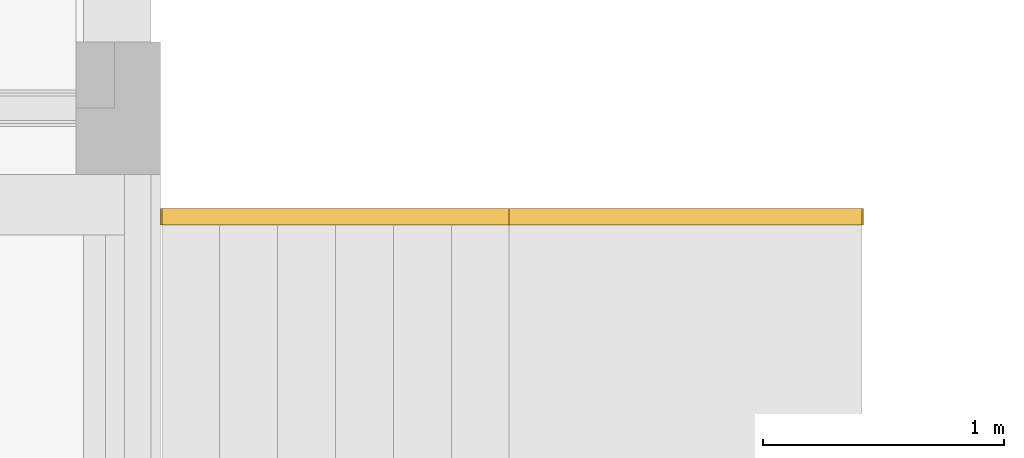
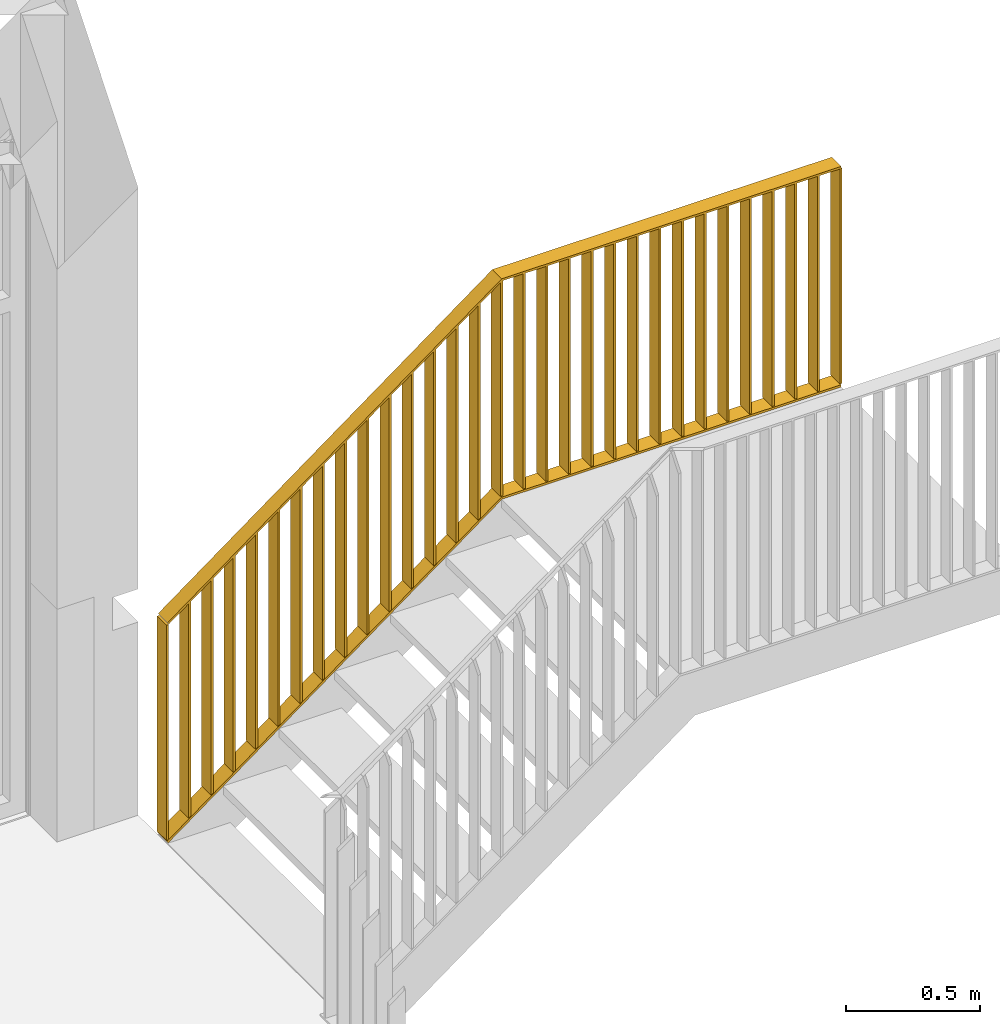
# One storey, part 48 of 54: 1 railing.
"""IFC2X3 building model written with IfcOpenShell, lengths in millimetres."""

import ifcopenshell
import ifcopenshell.guid

model = None  # the IFC model being written
_history = None  # IfcOwnerHistory: only IFC2X3 demands one
_inside = {}  # id of a spatial element -> (the spatial element, [elements in it])
_under = {}  # id of a project, library or spatial element -> (it, [spatial elements below it])
_declared = {}  # id of a project -> (the project, [libraries it declares])
_typed = {}  # id of a type object -> (the type object, [elements of that type])
_made_of = {}  # id of a material, layer set ... -> (it, [elements and type objects made of it])


def new_model(schema):
    """Start an empty IFC model of exactly this schema.

    Asked for "IFC4X3", IfcOpenShell would pick the latest addendum, in which some entities
    have other attributes; the version numbers below select the first issue.
    IFC2X3 requires an IfcOwnerHistory on every rooted entity: one is made here for all.
    """
    global model, _history
    if schema == "IFC4X3":
        model = ifcopenshell.file(schema_version=(4, 3, 0, 0))
    else:
        model = ifcopenshell.file(schema=schema)
    _inside.clear()
    _under.clear()
    _declared.clear()
    _typed.clear()
    _made_of.clear()
    _history = None
    if model.schema == "IFC2X3":
        org = make("IfcOrganization", Name="unknown")
        user = make(
            "IfcPersonAndOrganization",
            ThePerson=make("IfcPerson", FamilyName="unknown"),
            TheOrganization=org,
        )
        app = make(
            "IfcApplication",
            ApplicationDeveloper=org,
            Version="unknown",
            ApplicationFullName="unknown",
            ApplicationIdentifier="unknown",
        )
        _history = make(
            "IfcOwnerHistory",
            OwningUser=user,
            OwningApplication=app,
            ChangeAction="ADDED",
            CreationDate=0,
        )
    return model


def make(cls, **values):
    """One entity of the class cls with the attributes given. An attribute that is None is left unset."""
    return model.create_entity(
        cls, **{name: value for name, value in values.items() if value is not None}
    )


def entity(cls, *values):
    """Any entity or typed value of the class cls, its attributes in the order of the schema. None: left unset."""
    e = model.create_entity(cls)
    for i, value in enumerate(values):
        if value is not None:
            e[i] = value
    return e


def rooted(cls, **values):
    """An entity with a GlobalId (a new one), such as an element, a storey or a relation."""
    return make(cls, GlobalId=ifcopenshell.guid.new(), OwnerHistory=_history, **values)


def si_unit(unit_type, name, prefix=None):
    """IfcSIUnit, for example si_unit("LENGTHUNIT", "METRE", prefix="MILLI")."""
    return make("IfcSIUnit", UnitType=unit_type, Prefix=prefix, Name=name)


def converted_unit(unit_type, name, factor, base, dimensions=None, offset=None):
    """IfcConversionBasedUnit, such as the inch: factor (a typed value) times the base unit."""
    return make(
        "IfcConversionBasedUnit"
        if offset is None
        else "IfcConversionBasedUnitWithOffset",
        ConversionOffset=offset,
        Dimensions=None
        if dimensions is None
        else entity("IfcDimensionalExponents", *dimensions),
        UnitType=unit_type,
        Name=name,
        ConversionFactor=make(
            "IfcMeasureWithUnit", ValueComponent=factor, UnitComponent=base
        ),
    )


def derived_unit(unit_type, elements):
    """IfcDerivedUnit: a product of units, each with its exponent."""
    return make(
        "IfcDerivedUnit",
        Elements=[
            make("IfcDerivedUnitElement", Unit=unit, Exponent=power)
            for unit, power in elements
        ],
        UnitType=unit_type,
    )


def money_unit(currency):
    """IfcMonetaryUnit."""
    return make("IfcMonetaryUnit", Currency=currency)


def assignment(units):
    """IfcUnitAssignment: the units of a project."""
    return None if units is None else make("IfcUnitAssignment", Units=units)


def point(xyz):
    """IfcCartesianPoint."""
    return None if xyz is None else make("IfcCartesianPoint", Coordinates=xyz)


def direction(xyz):
    """IfcDirection."""
    return None if xyz is None else make("IfcDirection", DirectionRatios=xyz)


def frame(location, z_axis=None, x_axis=None):
    """IfcAxis2Placement3D, a coordinate frame: its origin and axes. An axis left out is left unset."""
    return make(
        "IfcAxis2Placement3D",
        Location=point(location),
        Axis=direction(z_axis),
        RefDirection=direction(x_axis),
    )


def origin_with_axes():
    """The frame at (0, 0, 0) with the z axis (0, 0, 1) and the x axis (1, 0, 0) written out."""
    return frame((0.0, 0.0, 0.0), z_axis=(0.0, 0.0, 1.0), x_axis=(1.0, 0.0, 0.0))


def place(relative_to, where):
    """IfcLocalPlacement: puts the frame where relative to a parent placement (None: the world)."""
    return make(
        "IfcLocalPlacement", PlacementRelTo=relative_to, RelativePlacement=where
    )


def context(
    kind, dimensions, precision=None, world=None, true_north=None, identifier=None
):
    """IfcGeometricRepresentationContext, for example the 3D "Model" context."""
    return make(
        "IfcGeometricRepresentationContext",
        ContextIdentifier=identifier,
        ContextType=kind,
        CoordinateSpaceDimension=dimensions,
        Precision=precision,
        WorldCoordinateSystem=world,
        TrueNorth=true_north,
    )


def subcontext(parent, identifier, kind, view, scale=None):
    """IfcGeometricRepresentationSubContext, for example "Body" below "Model"."""
    return make(
        "IfcGeometricRepresentationSubContext",
        ContextIdentifier=identifier,
        ContextType=kind,
        ParentContext=parent,
        TargetScale=scale,
        TargetView=view,
    )


def project(units=None, contexts=None):
    """IfcProject with its units and contexts."""
    return rooted(
        "IfcProject",
        Name="project",
        RepresentationContexts=contexts,
        UnitsInContext=assignment(units),
    )


def spatial(cls, under=None, at=None, **own):
    """A site, building, storey or space (cls), placed at a placement, below another one or the project."""
    s = rooted(cls, ObjectPlacement=at, **own)
    if under is not None:
        _under.setdefault(under.id(), (under, []))[1].append(s)
    return s


def faces_of(points, faces, orient=None, outer=None):
    """IfcFace entities. A face is a list of loops; a loop is a list of indices into points, from 0.

    orient and outer hold one flag for each loop. By default every Orientation is true, the
    first loop of a face is its IfcFaceOuterBound and the others are IfcFaceBound.
    """
    made = []
    for i, loops in enumerate(faces):
        bounds = []
        for j, loop in enumerate(loops):
            is_outer = j == 0 if outer is None else outer[i][j]
            bounds.append(
                make(
                    "IfcFaceOuterBound" if is_outer else "IfcFaceBound",
                    Bound=make("IfcPolyLoop", Polygon=[points[k] for k in loop]),
                    Orientation=True if orient is None else orient[i][j],
                )
            )
        made.append(make("IfcFace", Bounds=bounds))
    return made


def faceted_brep(points, faces, orient=None, outer=None, voids=None):
    """IfcFacetedBrep: a solid bounded by flat faces; with voids (closed shells), ...WithVoids."""
    shared = [point(p) for p in points]
    hull = make("IfcClosedShell", CfsFaces=faces_of(shared, faces, orient, outer))
    if voids is None:
        return make("IfcFacetedBrep", Outer=hull)
    return make(
        "IfcFacetedBrepWithVoids",
        Outer=hull,
        Voids=[
            make(cls, CfsFaces=faces_of(shared, fs, o, b)) for cls, fs, o, b in voids
        ],
    )


def shape(context_of_items, identifier, shape_type, items):
    """IfcShapeRepresentation: the items that make up one representation, for example the "Body"."""
    return make(
        "IfcShapeRepresentation",
        ContextOfItems=context_of_items,
        RepresentationIdentifier=identifier,
        RepresentationType=shape_type,
        Items=items,
    )


def material(Name=None, Category=None):
    """IfcMaterial."""
    return make("IfcMaterial", Name=Name, Category=Category)


def material_list(materials):
    """IfcMaterialList."""
    return make("IfcMaterialList", Materials=materials)


def made_of(thing, what):
    """Note that an element or type object is made of a material, layer set ...; save() writes the relation."""
    if what is not None:
        _made_of.setdefault(what.id(), (what, []))[1].append(thing)
    return thing


def type_object(cls, material=None, **own):
    """A type object (cls), such as IfcWallType, which elements share."""
    return made_of(rooted(cls, **own), material)


def element(
    cls,
    number,
    at=None,
    inside=None,
    cuts=None,
    type_object=None,
    material=None,
    context=None,
    identifier="Body",
    shape_type=None,
    held_by="IfcProductDefinitionShape",
    body=None,
    shapes=None,
    **own,
):
    """One element of the class cls, such as IfcWall. Its Tag is "e" and its number.

    at: its placement. inside: the storey or other place that contains it. cuts: it is an
    opening in that element (IfcRelVoidsElement). A single representation is given by context,
    identifier, shape_type and body (its items); several are given by shapes. held_by: the class
    of the entity that holds the representations. save() writes the other relations.
    """
    e = rooted(cls, Tag="e%d" % number, ObjectPlacement=at, **own)
    if body is not None:
        shapes = [shape(context, identifier, shape_type, body)]
    if shapes is not None:
        e.Representation = make(held_by, Representations=shapes)
    if inside is not None:
        _inside.setdefault(inside.id(), (inside, []))[1].append(e)
    if cuts is not None:
        rooted(
            "IfcRelVoidsElement", RelatingBuildingElement=cuts, RelatedOpeningElement=e
        )
    if type_object is not None:
        _typed.setdefault(type_object.id(), (type_object, []))[1].append(e)
    return made_of(e, material)


def aggregate(whole, parts):
    """IfcRelAggregates: a whole, such as a stair, and the parts it consists of."""
    return rooted("IfcRelAggregates", RelatingObject=whole, RelatedObjects=parts)


def save(model, path):
    """Write the relations noted so far, then the file.

    IfcRelAggregates (storeys below a building ...), IfcRelContainedInSpatialStructure (elements
    in a storey), IfcRelDefinesByType, IfcRelAssociatesMaterial and IfcRelDeclares: one each for
    every whole, place, type object, material and project.
    """
    for whole, parts in _under.values():
        aggregate(whole, parts)
    for where, things in _inside.values():
        rooted(
            "IfcRelContainedInSpatialStructure",
            RelatedElements=things,
            RelatingStructure=where,
        )
    for kind, things in _typed.values():
        rooted("IfcRelDefinesByType", RelatedObjects=things, RelatingType=kind)
    for what, things in _made_of.values():
        rooted("IfcRelAssociatesMaterial", RelatedObjects=things, RelatingMaterial=what)
    for by, libraries in _declared.values():
        rooted("IfcRelDeclares", RelatingContext=by, RelatedDefinitions=libraries)
    model.write(path)


model = new_model("IFC2X3")

# Units and contexts
model_context = context("Model", 3, precision=0.01, world=origin_with_axes(), true_north=direction((0.0, 1.0)))
body_context = subcontext(model_context, "Body", "Model", "MODEL_VIEW")
ifc_project = project(units=[si_unit("LENGTHUNIT", "METRE", prefix="MILLI"), si_unit("AREAUNIT", "SQUARE_METRE"), si_unit("VOLUMEUNIT", "CUBIC_METRE"), converted_unit("PLANEANGLEUNIT", "DEGREE", entity("IfcPlaneAngleMeasure", 0.0174532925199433), si_unit("PLANEANGLEUNIT", "RADIAN"), dimensions=[0, 0, 0, 0, 0, 0, 0]), money_unit("EUR"), converted_unit("TIMEUNIT", "Year", entity("IfcTimeMeasure", 31557600.0), si_unit("TIMEUNIT", "SECOND"), dimensions=[0, 0, 1, 0, 0, 0, 0]), si_unit("MASSUNIT", "GRAM", prefix="KILO"), si_unit("THERMODYNAMICTEMPERATUREUNIT", "DEGREE_CELSIUS"), si_unit("LUMINOUSINTENSITYUNIT", "LUMEN"), si_unit("ENERGYUNIT", "JOULE", prefix="MEGA"), derived_unit("THERMALCONDUCTANCEUNIT", [(si_unit("POWERUNIT", "WATT"), 1), (si_unit("LENGTHUNIT", "METRE"), -1), (si_unit("THERMODYNAMICTEMPERATUREUNIT", "KELVIN"), -1)]), derived_unit("SPECIFICHEATCAPACITYUNIT", [(si_unit("ENERGYUNIT", "JOULE"), 1), (si_unit("MASSUNIT", "GRAM", prefix="KILO"), -1), (si_unit("THERMODYNAMICTEMPERATUREUNIT", "KELVIN"), -1)]), derived_unit("MASSDENSITYUNIT", [(si_unit("MASSUNIT", "GRAM", prefix="KILO"), 1), (si_unit("VOLUMEUNIT", "CUBIC_METRE"), -1)])], contexts=[model_context])

# Site, building, storey
site_placement = place(None, origin_with_axes())
site = spatial("IfcSite", under=ifc_project, at=site_placement, Name="<site naam>", CompositionType="ELEMENT")
building_placement = place(site_placement, origin_with_axes())
building = spatial("IfcBuilding", under=site, at=building_placement, Name="<Naam gebouw>", CompositionType="ELEMENT")
storey_placement = place(building_placement, frame((0.0, 0.0, 8500.0), z_axis=(0.0, 0.0, 1.0), x_axis=(1.0, 0.0, 0.0)))
storey = spatial("IfcBuildingStorey", under=building, at=storey_placement, Name="02 2e verdieping", CompositionType="ELEMENT", Elevation=8500.0)

# Railing
ifc_material = material(Name="staal balustrade")
ifc_material_list = material_list([ifc_material, ifc_material, ifc_material, ifc_material, ifc_material, ifc_material, ifc_material, ifc_material, ifc_material, ifc_material, ifc_material, ifc_material, ifc_material, ifc_material, ifc_material, ifc_material, ifc_material, ifc_material, ifc_material, ifc_material, ifc_material, ifc_material, ifc_material, ifc_material, ifc_material, ifc_material, ifc_material, ifc_material, ifc_material, ifc_material, ifc_material, ifc_material, ifc_material, ifc_material, ifc_material])
railing_type = type_object("IfcRailingType", Name="Railing Type", PredefinedType="NOTDEFINED")
railing_placement = place(storey_placement, frame((52215.80885018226, 11515.00000000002, 0.0), z_axis=(0.0, 0.0, 1.0), x_axis=(1.0, 0.0, 0.0)))
element("IfcRailing", 1, at=railing_placement, inside=storey, type_object=railing_type, material=ifc_material_list, Name="34_Reling_", PredefinedType="NOTDEFINED", context=body_context, shape_type="Brep", body=[
    faceted_brep([(-30.62091710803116, 70.00000000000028, 15.00000000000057), (-30.62091710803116, 70.00000000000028, 994.9999999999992), (-30.62091710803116, 0.0, 994.9999999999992), (-30.62091710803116, 0.0, 15.00000000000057), (-40.62091710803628, 70.00000000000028, 15.00000000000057), (-40.62091710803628, 70.00000000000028, 994.9999999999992), (-40.62091710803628, 0.0, 994.9999999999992), (-40.62091710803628, 0.0, 15.00000000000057)], [[[0, 1, 2, 3]], [[4, 5, 1, 0]], [[1, 5, 6, 2]], [[3, 2, 6, 7]], [[0, 3, 7, 4]], [[7, 6, 5, 4]]]),
    faceted_brep([(1409.379082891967, 70.00000000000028, 1078.000000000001), (1409.379082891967, 70.00000000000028, 2058.000000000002), (1409.379082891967, 0.0, 2058.000000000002), (1409.379082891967, 0.0, 1078.000000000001), (1399.379082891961, 70.00000000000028, 1078.000000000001), (1399.379082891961, 70.00000000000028, 2058.000000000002), (1399.379082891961, 0.0, 2058.000000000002), (1399.379082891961, 0.0, 1078.000000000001)], [[[0, 1, 2, 3]], [[4, 5, 1, 0]], [[1, 5, 6, 2]], [[3, 2, 6, 7]], [[0, 3, 7, 4]], [[7, 6, 5, 4]]]),
    faceted_brep([(2872.415070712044, 70.00000000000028, 1078.000000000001), (2872.415070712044, 70.00000000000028, 2058.000000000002), (2872.415070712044, 0.0, 2058.000000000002), (2872.415070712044, 0.0, 1078.000000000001), (2862.415070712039, 70.00000000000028, 1078.000000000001), (2862.415070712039, 70.00000000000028, 2058.000000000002), (2862.415070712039, 0.0, 2058.000000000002), (2862.415070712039, 0.0, 1078.000000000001)], [[[0, 1, 2, 3]], [[4, 5, 1, 0]], [[1, 5, 6, 2]], [[3, 2, 6, 7]], [[0, 3, 7, 4]], [[7, 6, 5, 4]]]),
    faceted_brep([(-35.62091710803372, 0.0, 1004.999999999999), (-29.68187747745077, 0.0, 996.954640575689), (1407.670255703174, 0.0, 2058.000000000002), (1404.379082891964, 0.0, 2068.000000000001), (-35.62091710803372, 70.00000000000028, 1004.999999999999), (-29.68187747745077, 70.00000000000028, 996.954640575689), (1407.670255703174, 70.00000000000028, 2058.000000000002), (1404.379082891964, 70.00000000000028, 2068.000000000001)], [[[0, 1, 2, 3]], [[0, 4, 5, 1]], [[1, 5, 6, 2]], [[3, 2, 6, 7]], [[4, 0, 3, 7]], [[5, 4, 7, 6]]]),
    faceted_brep([(-38.59043692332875, 0.0, 9.022679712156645), (-32.65139729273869, 0.0, 0.9773202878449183), (1404.379082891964, 0.0, 1061.78523725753), (1404.379082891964, 0.0, 1074.214762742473), (-38.59043692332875, 70.00000000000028, 9.022679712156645), (-32.65139729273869, 70.00000000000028, 0.9773202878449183), (1404.379082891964, 70.00000000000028, 1061.78523725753), (1404.379082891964, 70.00000000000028, 1074.214762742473)], [[[0, 1, 2, 3]], [[0, 4, 5, 1]], [[1, 5, 6, 2]], [[3, 2, 6, 7]], [[4, 0, 3, 7]], [[5, 4, 7, 6]]]),
    faceted_brep([(65.37908289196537, 70.00000000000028, 89.55763888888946), (65.37908289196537, 70.00000000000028, 1069.557638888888), (65.37908289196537, 0.0, 1069.557638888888), (65.37908289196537, 0.0, 89.55763888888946), (55.37908289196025, 70.00000000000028, 82.17569444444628), (55.37908289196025, 70.00000000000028, 1062.175694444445), (55.37908289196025, 0.0, 1062.175694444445), (55.37908289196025, 0.0, 82.17569444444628)], [[[0, 1, 2, 3]], [[4, 5, 1, 0]], [[1, 5, 6, 2]], [[3, 2, 6, 7]], [[0, 3, 7, 4]], [[7, 6, 5, 4]]]),
    faceted_brep([(161.379082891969, 70.00000000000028, 160.424305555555), (161.379082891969, 70.00000000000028, 1140.424305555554), (161.379082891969, 0.0, 1140.424305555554), (161.379082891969, 0.0, 160.424305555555), (151.3790828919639, 70.00000000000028, 153.0423611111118), (151.3790828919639, 70.00000000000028, 1133.04236111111), (151.3790828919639, 0.0, 1133.04236111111), (151.3790828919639, 0.0, 153.0423611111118)], [[[0, 1, 2, 3]], [[4, 5, 1, 0]], [[1, 5, 6, 2]], [[3, 2, 6, 7]], [[0, 3, 7, 4]], [[7, 6, 5, 4]]]),
    faceted_brep([(257.3790828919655, 70.00000000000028, 231.2909722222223), (257.3790828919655, 70.00000000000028, 1211.290972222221), (257.3790828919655, 0.0, 1211.290972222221), (257.3790828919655, 0.0, 231.2909722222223), (247.3790828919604, 70.00000000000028, 223.9090277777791), (247.3790828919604, 70.00000000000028, 1203.909027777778), (247.3790828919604, 0.0, 1203.909027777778), (247.3790828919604, 0.0, 223.9090277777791)], [[[0, 1, 2, 3]], [[4, 5, 1, 0]], [[1, 5, 6, 2]], [[3, 2, 6, 7]], [[0, 3, 7, 4]], [[7, 6, 5, 4]]]),
    faceted_brep([(353.3790828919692, 70.00000000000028, 302.1576388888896), (353.3790828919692, 70.00000000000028, 1282.157638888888), (353.3790828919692, 0.0, 1282.157638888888), (353.3790828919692, 0.0, 302.1576388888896), (343.3790828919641, 70.00000000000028, 294.7756944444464), (343.3790828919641, 70.00000000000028, 1274.775694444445), (343.3790828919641, 0.0, 1274.775694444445), (343.3790828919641, 0.0, 294.7756944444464)], [[[0, 1, 2, 3]], [[4, 5, 1, 0]], [[1, 5, 6, 2]], [[3, 2, 6, 7]], [[0, 3, 7, 4]], [[7, 6, 5, 4]]]),
    faceted_brep([(449.3790828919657, 70.00000000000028, 373.0243055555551), (449.3790828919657, 70.00000000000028, 1353.024305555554), (449.3790828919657, 0.0, 1353.024305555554), (449.3790828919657, 0.0, 373.0243055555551), (439.3790828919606, 70.00000000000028, 365.6423611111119), (439.3790828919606, 70.00000000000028, 1345.642361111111), (439.3790828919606, 0.0, 1345.642361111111), (439.3790828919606, 0.0, 365.6423611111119)], [[[0, 1, 2, 3]], [[4, 5, 1, 0]], [[1, 5, 6, 2]], [[3, 2, 6, 7]], [[0, 3, 7, 4]], [[7, 6, 5, 4]]]),
    faceted_brep([(545.3790828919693, 70.00000000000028, 443.8909722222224), (545.3790828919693, 70.00000000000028, 1423.890972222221), (545.3790828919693, 0.0, 1423.890972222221), (545.3790828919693, 0.0, 443.8909722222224), (535.3790828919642, 70.00000000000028, 436.5090277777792), (535.3790828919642, 70.00000000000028, 1416.509027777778), (535.3790828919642, 0.0, 1416.509027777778), (535.3790828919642, 0.0, 436.5090277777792)], [[[0, 1, 2, 3]], [[4, 5, 1, 0]], [[1, 5, 6, 2]], [[3, 2, 6, 7]], [[0, 3, 7, 4]], [[7, 6, 5, 4]]]),
    faceted_brep([(641.3790828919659, 70.00000000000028, 514.7576388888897), (641.3790828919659, 70.00000000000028, 1494.757638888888), (641.3790828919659, 0.0, 1494.757638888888), (641.3790828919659, 0.0, 514.7576388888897), (631.3790828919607, 70.00000000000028, 507.3756944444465), (631.3790828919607, 70.00000000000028, 1487.375694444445), (631.3790828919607, 0.0, 1487.375694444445), (631.3790828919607, 0.0, 507.3756944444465)], [[[0, 1, 2, 3]], [[4, 5, 1, 0]], [[1, 5, 6, 2]], [[3, 2, 6, 7]], [[0, 3, 7, 4]], [[7, 6, 5, 4]]]),
    faceted_brep([(737.3790828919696, 70.00000000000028, 585.6243055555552), (737.3790828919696, 70.00000000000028, 1565.624305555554), (737.3790828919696, 0.0, 1565.624305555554), (737.3790828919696, 0.0, 585.6243055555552), (727.3790828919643, 70.00000000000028, 578.242361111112), (727.3790828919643, 70.00000000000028, 1558.242361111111), (727.3790828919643, 0.0, 1558.242361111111), (727.3790828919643, 0.0, 578.242361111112)], [[[0, 1, 2, 3]], [[4, 5, 1, 0]], [[1, 5, 6, 2]], [[3, 2, 6, 7]], [[0, 3, 7, 4]], [[7, 6, 5, 4]]]),
    faceted_brep([(833.379082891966, 70.00000000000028, 656.4909722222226), (833.379082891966, 70.00000000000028, 1636.490972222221), (833.379082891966, 0.0, 1636.490972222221), (833.379082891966, 0.0, 656.4909722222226), (823.3790828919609, 70.00000000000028, 649.1090277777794), (823.3790828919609, 70.00000000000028, 1629.109027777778), (823.3790828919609, 0.0, 1629.109027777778), (823.3790828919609, 0.0, 649.1090277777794)], [[[0, 1, 2, 3]], [[4, 5, 1, 0]], [[1, 5, 6, 2]], [[3, 2, 6, 7]], [[0, 3, 7, 4]], [[7, 6, 5, 4]]]),
    faceted_brep([(929.3790828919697, 70.00000000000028, 727.3576388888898), (929.3790828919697, 70.00000000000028, 1707.357638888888), (929.3790828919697, 0.0, 1707.357638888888), (929.3790828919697, 0.0, 727.3576388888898), (919.3790828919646, 70.00000000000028, 719.9756944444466), (919.3790828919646, 70.00000000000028, 1699.975694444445), (919.3790828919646, 0.0, 1699.975694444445), (919.3790828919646, 0.0, 719.9756944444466)], [[[0, 1, 2, 3]], [[4, 5, 1, 0]], [[1, 5, 6, 2]], [[3, 2, 6, 7]], [[0, 3, 7, 4]], [[7, 6, 5, 4]]]),
    faceted_brep([(1025.379082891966, 70.00000000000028, 798.2243055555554), (1025.379082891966, 70.00000000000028, 1778.224305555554), (1025.379082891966, 0.0, 1778.224305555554), (1025.379082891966, 0.0, 798.2243055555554), (1015.379082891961, 70.00000000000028, 790.8423611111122), (1015.379082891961, 70.00000000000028, 1770.842361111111), (1015.379082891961, 0.0, 1770.842361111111), (1015.379082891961, 0.0, 790.8423611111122)], [[[0, 1, 2, 3]], [[4, 5, 1, 0]], [[1, 5, 6, 2]], [[3, 2, 6, 7]], [[0, 3, 7, 4]], [[7, 6, 5, 4]]]),
    faceted_brep([(1121.37908289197, 70.00000000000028, 869.0909722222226), (1121.37908289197, 70.00000000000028, 1849.090972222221), (1121.37908289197, 0.0, 1849.090972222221), (1121.37908289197, 0.0, 869.0909722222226), (1111.379082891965, 70.00000000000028, 861.7090277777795), (1111.379082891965, 70.00000000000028, 1841.709027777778), (1111.379082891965, 0.0, 1841.709027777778), (1111.379082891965, 0.0, 861.7090277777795)], [[[0, 1, 2, 3]], [[4, 5, 1, 0]], [[1, 5, 6, 2]], [[3, 2, 6, 7]], [[0, 3, 7, 4]], [[7, 6, 5, 4]]]),
    faceted_brep([(1217.379082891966, 70.00000000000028, 939.95763888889), (1217.379082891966, 70.00000000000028, 1919.957638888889), (1217.379082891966, 0.0, 1919.957638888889), (1217.379082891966, 0.0, 939.95763888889), (1207.379082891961, 70.00000000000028, 932.5756944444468), (1207.379082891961, 70.00000000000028, 1912.575694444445), (1207.379082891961, 0.0, 1912.575694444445), (1207.379082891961, 0.0, 932.5756944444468)], [[[0, 1, 2, 3]], [[4, 5, 1, 0]], [[1, 5, 6, 2]], [[3, 2, 6, 7]], [[0, 3, 7, 4]], [[7, 6, 5, 4]]]),
    faceted_brep([(1313.37908289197, 70.00000000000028, 1010.824305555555), (1313.37908289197, 70.00000000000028, 1990.824305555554), (1313.37908289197, 0.0, 1990.824305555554), (1313.37908289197, 0.0, 1010.824305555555), (1303.379082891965, 70.00000000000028, 1003.442361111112), (1303.379082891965, 70.00000000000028, 1983.442361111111), (1303.379082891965, 0.0, 1983.442361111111), (1303.379082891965, 0.0, 1003.442361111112)], [[[0, 1, 2, 3]], [[4, 5, 1, 0]], [[1, 5, 6, 2]], [[3, 2, 6, 7]], [[0, 3, 7, 4]], [[7, 6, 5, 4]]]),
    faceted_brep([(1404.379082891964, 0.0, 2068.000000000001), (1407.670255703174, 0.0, 2058.000000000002), (2867.415070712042, 0.0, 2058.000000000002), (2867.415070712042, 0.0, 2068.000000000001), (1404.379082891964, 70.00000000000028, 2068.000000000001), (1407.670255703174, 70.00000000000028, 2058.000000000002), (2867.415070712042, 70.00000000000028, 2058.000000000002), (2867.415070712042, 70.00000000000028, 2068.000000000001)], [[[0, 1, 2, 3]], [[0, 4, 5, 1]], [[1, 5, 6, 2]], [[3, 2, 6, 7]], [[4, 0, 3, 7]], [[5, 4, 7, 6]]]),
    faceted_brep([(1404.379082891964, 0.0, 1073.000000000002), (1404.379082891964, 0.0, 1063.000000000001), (2867.415070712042, 0.0, 1063.000000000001), (2867.415070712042, 0.0, 1073.000000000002), (1404.379082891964, 70.00000000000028, 1073.000000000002), (1404.379082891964, 70.00000000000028, 1063.000000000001), (2867.415070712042, 70.00000000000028, 1063.000000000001), (2867.415070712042, 70.00000000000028, 1073.000000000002)], [[[0, 1, 2, 3]], [[0, 4, 5, 1]], [[1, 5, 6, 2]], [[3, 2, 6, 7]], [[4, 0, 3, 7]], [[5, 4, 7, 6]]]),
    faceted_brep([(1506.914815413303, 70.00000000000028, 1078.000000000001), (1506.914815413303, 70.00000000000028, 2058.000000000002), (1506.914815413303, 0.0, 2058.000000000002), (1506.914815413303, 0.0, 1078.000000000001), (1496.914815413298, 70.00000000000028, 1078.000000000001), (1496.914815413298, 70.00000000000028, 2058.000000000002), (1496.914815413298, 0.0, 2058.000000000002), (1496.914815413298, 0.0, 1078.000000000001)], [[[0, 1, 2, 3]], [[4, 5, 1, 0]], [[1, 5, 6, 2]], [[3, 2, 6, 7]], [[0, 3, 7, 4]], [[7, 6, 5, 4]]]),
    faceted_brep([(1604.450547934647, 70.00000000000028, 1078.000000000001), (1604.450547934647, 70.00000000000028, 2058.000000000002), (1604.450547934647, 0.0, 2058.000000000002), (1604.450547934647, 0.0, 1078.000000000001), (1594.450547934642, 70.00000000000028, 1078.000000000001), (1594.450547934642, 70.00000000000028, 2058.000000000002), (1594.450547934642, 0.0, 2058.000000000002), (1594.450547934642, 0.0, 1078.000000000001)], [[[0, 1, 2, 3]], [[4, 5, 1, 0]], [[1, 5, 6, 2]], [[3, 2, 6, 7]], [[0, 3, 7, 4]], [[7, 6, 5, 4]]]),
    faceted_brep([(1701.986280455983, 70.00000000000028, 1078.000000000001), (1701.986280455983, 70.00000000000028, 2058.000000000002), (1701.986280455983, 0.0, 2058.000000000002), (1701.986280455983, 0.0, 1078.000000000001), (1691.986280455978, 70.00000000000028, 1078.000000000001), (1691.986280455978, 70.00000000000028, 2058.000000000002), (1691.986280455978, 0.0, 2058.000000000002), (1691.986280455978, 0.0, 1078.000000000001)], [[[0, 1, 2, 3]], [[4, 5, 1, 0]], [[1, 5, 6, 2]], [[3, 2, 6, 7]], [[0, 3, 7, 4]], [[7, 6, 5, 4]]]),
    faceted_brep([(1799.52201297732, 70.00000000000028, 1078.000000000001), (1799.52201297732, 70.00000000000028, 2058.000000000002), (1799.52201297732, 0.0, 2058.000000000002), (1799.52201297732, 0.0, 1078.000000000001), (1789.522012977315, 70.00000000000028, 1078.000000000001), (1789.522012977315, 70.00000000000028, 2058.000000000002), (1789.522012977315, 0.0, 2058.000000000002), (1789.522012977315, 0.0, 1078.000000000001)], [[[0, 1, 2, 3]], [[4, 5, 1, 0]], [[1, 5, 6, 2]], [[3, 2, 6, 7]], [[0, 3, 7, 4]], [[7, 6, 5, 4]]]),
    faceted_brep([(1897.057745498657, 70.00000000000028, 1078.000000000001), (1897.057745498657, 70.00000000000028, 2058.000000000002), (1897.057745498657, 0.0, 2058.000000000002), (1897.057745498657, 0.0, 1078.000000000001), (1887.057745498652, 70.00000000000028, 1078.000000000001), (1887.057745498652, 70.00000000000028, 2058.000000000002), (1887.057745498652, 0.0, 2058.000000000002), (1887.057745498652, 0.0, 1078.000000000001)], [[[0, 1, 2, 3]], [[4, 5, 1, 0]], [[1, 5, 6, 2]], [[3, 2, 6, 7]], [[0, 3, 7, 4]], [[7, 6, 5, 4]]]),
    faceted_brep([(1994.59347802, 70.00000000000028, 1078.000000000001), (1994.59347802, 70.00000000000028, 2058.000000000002), (1994.59347802, 0.0, 2058.000000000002), (1994.59347802, 0.0, 1078.000000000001), (1984.593478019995, 70.00000000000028, 1078.000000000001), (1984.593478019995, 70.00000000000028, 2058.000000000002), (1984.593478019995, 0.0, 2058.000000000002), (1984.593478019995, 0.0, 1078.000000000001)], [[[0, 1, 2, 3]], [[4, 5, 1, 0]], [[1, 5, 6, 2]], [[3, 2, 6, 7]], [[0, 3, 7, 4]], [[7, 6, 5, 4]]]),
    faceted_brep([(2092.129210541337, 70.00000000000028, 1078.000000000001), (2092.129210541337, 70.00000000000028, 2058.000000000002), (2092.129210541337, 0.0, 2058.000000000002), (2092.129210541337, 0.0, 1078.000000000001), (2082.129210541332, 70.00000000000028, 1078.000000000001), (2082.129210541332, 70.00000000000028, 2058.000000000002), (2082.129210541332, 0.0, 2058.000000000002), (2082.129210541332, 0.0, 1078.000000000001)], [[[0, 1, 2, 3]], [[4, 5, 1, 0]], [[1, 5, 6, 2]], [[3, 2, 6, 7]], [[0, 3, 7, 4]], [[7, 6, 5, 4]]]),
    faceted_brep([(2189.664943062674, 70.00000000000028, 1078.000000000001), (2189.664943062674, 70.00000000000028, 2058.000000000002), (2189.664943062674, 0.0, 2058.000000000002), (2189.664943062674, 0.0, 1078.000000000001), (2179.664943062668, 70.00000000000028, 1078.000000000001), (2179.664943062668, 70.00000000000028, 2058.000000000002), (2179.664943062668, 0.0, 2058.000000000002), (2179.664943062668, 0.0, 1078.000000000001)], [[[0, 1, 2, 3]], [[4, 5, 1, 0]], [[1, 5, 6, 2]], [[3, 2, 6, 7]], [[0, 3, 7, 4]], [[7, 6, 5, 4]]]),
    faceted_brep([(2287.20067558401, 70.00000000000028, 1078.000000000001), (2287.20067558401, 70.00000000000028, 2058.000000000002), (2287.20067558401, 0.0, 2058.000000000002), (2287.20067558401, 0.0, 1078.000000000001), (2277.200675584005, 70.00000000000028, 1078.000000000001), (2277.200675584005, 70.00000000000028, 2058.000000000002), (2277.200675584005, 0.0, 2058.000000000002), (2277.200675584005, 0.0, 1078.000000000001)], [[[0, 1, 2, 3]], [[4, 5, 1, 0]], [[1, 5, 6, 2]], [[3, 2, 6, 7]], [[0, 3, 7, 4]], [[7, 6, 5, 4]]]),
    faceted_brep([(2384.736408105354, 70.00000000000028, 1078.000000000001), (2384.736408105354, 70.00000000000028, 2058.000000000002), (2384.736408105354, 0.0, 2058.000000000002), (2384.736408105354, 0.0, 1078.000000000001), (2374.736408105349, 70.00000000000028, 1078.000000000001), (2374.736408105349, 70.00000000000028, 2058.000000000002), (2374.736408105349, 0.0, 2058.000000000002), (2374.736408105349, 0.0, 1078.000000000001)], [[[0, 1, 2, 3]], [[4, 5, 1, 0]], [[1, 5, 6, 2]], [[3, 2, 6, 7]], [[0, 3, 7, 4]], [[7, 6, 5, 4]]]),
    faceted_brep([(2482.272140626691, 70.00000000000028, 1078.000000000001), (2482.272140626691, 70.00000000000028, 2058.000000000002), (2482.272140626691, 0.0, 2058.000000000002), (2482.272140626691, 0.0, 1078.000000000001), (2472.272140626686, 70.00000000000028, 1078.000000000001), (2472.272140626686, 70.00000000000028, 2058.000000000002), (2472.272140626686, 0.0, 2058.000000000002), (2472.272140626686, 0.0, 1078.000000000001)], [[[0, 1, 2, 3]], [[4, 5, 1, 0]], [[1, 5, 6, 2]], [[3, 2, 6, 7]], [[0, 3, 7, 4]], [[7, 6, 5, 4]]]),
    faceted_brep([(2579.807873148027, 70.00000000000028, 1078.000000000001), (2579.807873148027, 70.00000000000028, 2058.000000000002), (2579.807873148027, 0.0, 2058.000000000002), (2579.807873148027, 0.0, 1078.000000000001), (2569.807873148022, 70.00000000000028, 1078.000000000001), (2569.807873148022, 70.00000000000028, 2058.000000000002), (2569.807873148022, 0.0, 2058.000000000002), (2569.807873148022, 0.0, 1078.000000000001)], [[[0, 1, 2, 3]], [[4, 5, 1, 0]], [[1, 5, 6, 2]], [[3, 2, 6, 7]], [[0, 3, 7, 4]], [[7, 6, 5, 4]]]),
    faceted_brep([(2677.343605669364, 70.00000000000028, 1078.000000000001), (2677.343605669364, 70.00000000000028, 2058.000000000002), (2677.343605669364, 0.0, 2058.000000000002), (2677.343605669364, 0.0, 1078.000000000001), (2667.343605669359, 70.00000000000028, 1078.000000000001), (2667.343605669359, 70.00000000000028, 2058.000000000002), (2667.343605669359, 0.0, 2058.000000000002), (2667.343605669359, 0.0, 1078.000000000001)], [[[0, 1, 2, 3]], [[4, 5, 1, 0]], [[1, 5, 6, 2]], [[3, 2, 6, 7]], [[0, 3, 7, 4]], [[7, 6, 5, 4]]]),
    faceted_brep([(2774.879338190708, 70.00000000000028, 1078.000000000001), (2774.879338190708, 70.00000000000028, 2058.000000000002), (2774.879338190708, 0.0, 2058.000000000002), (2774.879338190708, 0.0, 1078.000000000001), (2764.879338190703, 70.00000000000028, 1078.000000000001), (2764.879338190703, 70.00000000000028, 2058.000000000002), (2764.879338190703, 0.0, 2058.000000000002), (2764.879338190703, 0.0, 1078.000000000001)], [[[0, 1, 2, 3]], [[4, 5, 1, 0]], [[1, 5, 6, 2]], [[3, 2, 6, 7]], [[0, 3, 7, 4]], [[7, 6, 5, 4]]]),
])

save(model, "model.ifc")
